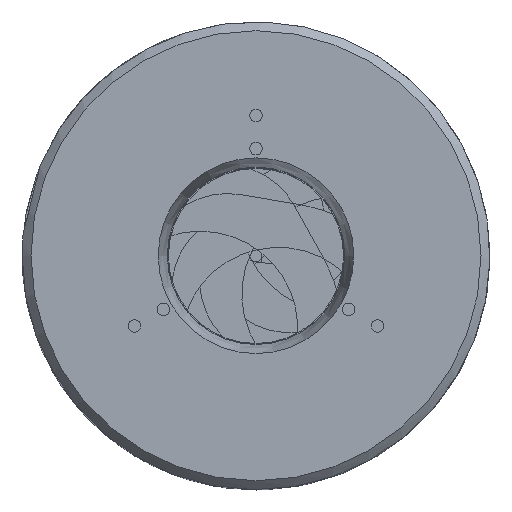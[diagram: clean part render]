
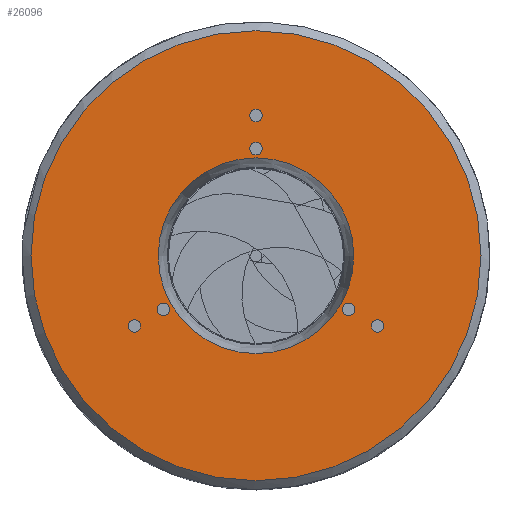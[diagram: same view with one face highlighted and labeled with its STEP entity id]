
A CAD part, top view. The second image highlights one B-rep face of the part: STEP entity #26096.
In plain terms, the highlighted planar face has unit normal (0, 0, 1).
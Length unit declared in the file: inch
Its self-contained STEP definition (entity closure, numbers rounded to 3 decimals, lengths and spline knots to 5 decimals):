
#351 = VERTEX_POINT ( 'NONE', #50997 ) ;
#1423 = DIRECTION ( 'NONE',  ( 1., 0., 0. ) ) ;
#3204 = CIRCLE ( 'NONE', #10507, 0.035 ) ;
#3343 = ORIENTED_EDGE ( 'NONE', *, *, #73290, .F. ) ;
#3952 = FACE_BOUND ( 'NONE', #28777, .T. ) ;
#6481 = ORIENTED_EDGE ( 'NONE', *, *, #65766, .F. ) ;
#6584 = CIRCLE ( 'NONE', #40056, 0.035 ) ;
#8608 = DIRECTION ( 'NONE',  ( 1., 0., 0. ) ) ;
#9493 = CARTESIAN_POINT ( 'NONE',  ( -0.68329, -0.3945, 1.098 ) ) ;
#10507 = AXIS2_PLACEMENT_3D ( 'NONE', #48795, #43455, #8608 ) ;
#12009 = VERTEX_POINT ( 'NONE', #22085 ) ;
#13578 = DIRECTION ( 'NONE',  ( 0., 0., 1. ) ) ;
#14138 = ORIENTED_EDGE ( 'NONE', *, *, #30643, .F. ) ;
#15260 = ORIENTED_EDGE ( 'NONE', *, *, #46300, .F. ) ;
#15668 = FACE_BOUND ( 'NONE', #62920, .T. ) ;
#16165 = EDGE_LOOP ( 'NONE', ( #3343 ) ) ;
#16224 = DIRECTION ( 'NONE',  ( 0., 0., 1. ) ) ;
#17496 = FACE_BOUND ( 'NONE', #48935, .T. ) ;
#17581 = FACE_BOUND ( 'NONE', #55092, .T. ) ;
#17767 = DIRECTION ( 'NONE',  ( 1., 0., 0. ) ) ;
#20635 = CIRCLE ( 'NONE', #33818, 0.035 ) ;
#22085 = CARTESIAN_POINT ( 'NONE',  ( -0.48635, -0.301, 1.098 ) ) ;
#23352 = DIRECTION ( 'NONE',  ( 0., 0., 1. ) ) ;
#23424 = CARTESIAN_POINT ( 'NONE',  ( 0.71829, -0.3945, 1.098 ) ) ;
#23512 = CARTESIAN_POINT ( 'NONE',  ( 0., 1.315, 1.098 ) ) ;
#24490 = CARTESIAN_POINT ( 'NONE',  ( 0., 0.602, 1.098 ) ) ;
#24559 = AXIS2_PLACEMENT_3D ( 'NONE', #56528, #26733, #38510 ) ;
#25240 = CARTESIAN_POINT ( 'NONE',  ( 0., 0., 1.098 ) ) ;
#25681 = VERTEX_POINT ( 'NONE', #43560 ) ;
#26096 = ADVANCED_FACE ( 'NONE', ( #3952, #17581, #17496, #15668, #58502, #60333, #46772, #63961 ), #58420, .F. ) ;
#26690 = VERTEX_POINT ( 'NONE', #23424 ) ;
#26733 = DIRECTION ( 'NONE',  ( 0., 0., -1. ) ) ;
#28059 = AXIS2_PLACEMENT_3D ( 'NONE', #24490, #36280, #1423 ) ;
#28737 = CARTESIAN_POINT ( 'NONE',  ( 0.52135, -0.301, 1.098 ) ) ;
#28777 = EDGE_LOOP ( 'NONE', ( #6481 ) ) ;
#29405 = AXIS2_PLACEMENT_3D ( 'NONE', #25240, #13578, #71615 ) ;
#30643 = EDGE_CURVE ( 'NONE', #46826, #46826, #45749, .T. ) ;
#30756 = CIRCLE ( 'NONE', #24559, 0.55 ) ;
#32400 = ORIENTED_EDGE ( 'NONE', *, *, #46923, .F. ) ;
#33088 = CARTESIAN_POINT ( 'NONE',  ( 0., 0.789, 1.098 ) ) ;
#33114 = EDGE_CURVE ( 'NONE', #68659, #68659, #30756, .T. ) ;
#33672 = AXIS2_PLACEMENT_3D ( 'NONE', #33088, #68442, #39484 ) ;
#33818 = AXIS2_PLACEMENT_3D ( 'NONE', #28737, #23352, #17767 ) ;
#35509 = ORIENTED_EDGE ( 'NONE', *, *, #37968, .T. ) ;
#35550 = CARTESIAN_POINT ( 'NONE',  ( 0.68329, -0.3945, 1.098 ) ) ;
#36280 = DIRECTION ( 'NONE',  ( 0., 0., 1. ) ) ;
#37605 = ORIENTED_EDGE ( 'NONE', *, *, #39346, .F. ) ;
#37719 = CIRCLE ( 'NONE', #28059, 0.035 ) ;
#37968 = EDGE_CURVE ( 'NONE', #41370, #41370, #63665, .T. ) ;
#38510 = DIRECTION ( 'NONE',  ( -1., 0., 0. ) ) ;
#39346 = EDGE_CURVE ( 'NONE', #351, #351, #37719, .T. ) ;
#39484 = DIRECTION ( 'NONE',  ( 1., 0., 0. ) ) ;
#40056 = AXIS2_PLACEMENT_3D ( 'NONE', #9493, #16224, #74331 ) ;
#40433 = DIRECTION ( 'NONE',  ( -1., 0., 0. ) ) ;
#41370 = VERTEX_POINT ( 'NONE', #57832 ) ;
#43455 = DIRECTION ( 'NONE',  ( 0., 0., 1. ) ) ;
#43560 = CARTESIAN_POINT ( 'NONE',  ( -0.64829, -0.3945, 1.098 ) ) ;
#44937 = VERTEX_POINT ( 'NONE', #47151 ) ;
#45749 = CIRCLE ( 'NONE', #33672, 0.035 ) ;
#46230 = DIRECTION ( 'NONE',  ( 0., 0., -1. ) ) ;
#46300 = EDGE_CURVE ( 'NONE', #44937, #44937, #20635, .T. ) ;
#46772 = FACE_OUTER_BOUND ( 'NONE', #56401, .T. ) ;
#46826 = VERTEX_POINT ( 'NONE', #61907 ) ;
#46923 = EDGE_CURVE ( 'NONE', #26690, #26690, #54048, .T. ) ;
#46967 = EDGE_LOOP ( 'NONE', ( #54452 ) ) ;
#47151 = CARTESIAN_POINT ( 'NONE',  ( 0.55635, -0.301, 1.098 ) ) ;
#48795 = CARTESIAN_POINT ( 'NONE',  ( -0.52135, -0.301, 1.098 ) ) ;
#48935 = EDGE_LOOP ( 'NONE', ( #32400 ) ) ;
#50997 = CARTESIAN_POINT ( 'NONE',  ( 0.035, 0.602, 1.098 ) ) ;
#54048 = CIRCLE ( 'NONE', #60680, 0.035 ) ;
#54452 = ORIENTED_EDGE ( 'NONE', *, *, #33114, .T. ) ;
#55092 = EDGE_LOOP ( 'NONE', ( #15260 ) ) ;
#56401 = EDGE_LOOP ( 'NONE', ( #35509 ) ) ;
#56528 = CARTESIAN_POINT ( 'NONE',  ( 0., 0., 1.098 ) ) ;
#57832 = CARTESIAN_POINT ( 'NONE',  ( -1.265, 0., 1.098 ) ) ;
#58420 = PLANE ( 'NONE',  #73669 ) ;
#58502 = FACE_BOUND ( 'NONE', #62225, .T. ) ;
#60333 = FACE_BOUND ( 'NONE', #46967, .T. ) ;
#60680 = AXIS2_PLACEMENT_3D ( 'NONE', #35550, #64268, #70132 ) ;
#61907 = CARTESIAN_POINT ( 'NONE',  ( 0.035, 0.789, 1.098 ) ) ;
#62225 = EDGE_LOOP ( 'NONE', ( #14138 ) ) ;
#62920 = EDGE_LOOP ( 'NONE', ( #37605 ) ) ;
#63665 = CIRCLE ( 'NONE', #29405, 1.265 ) ;
#63961 = FACE_BOUND ( 'NONE', #16165, .T. ) ;
#64268 = DIRECTION ( 'NONE',  ( 0., 0., 1. ) ) ;
#65766 = EDGE_CURVE ( 'NONE', #25681, #25681, #6584, .T. ) ;
#68442 = DIRECTION ( 'NONE',  ( 0., 0., 1. ) ) ;
#68659 = VERTEX_POINT ( 'NONE', #68799 ) ;
#68799 = CARTESIAN_POINT ( 'NONE',  ( -0.55, 0., 1.098 ) ) ;
#70132 = DIRECTION ( 'NONE',  ( 1., 0., 0. ) ) ;
#71615 = DIRECTION ( 'NONE',  ( -1., 0., 0. ) ) ;
#73290 = EDGE_CURVE ( 'NONE', #12009, #12009, #3204, .T. ) ;
#73669 = AXIS2_PLACEMENT_3D ( 'NONE', #23512, #46230, #40433 ) ;
#74331 = DIRECTION ( 'NONE',  ( 1., 0., 0. ) ) ;
